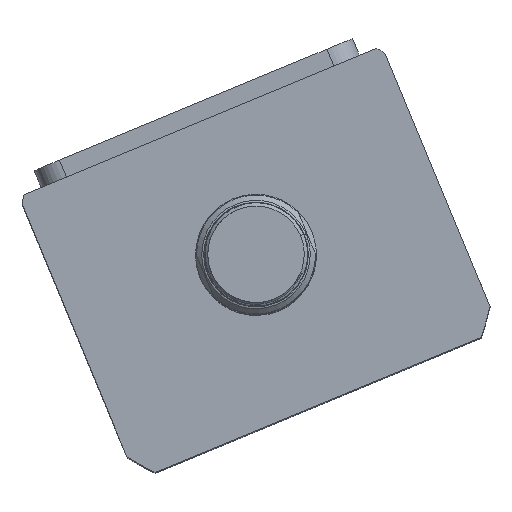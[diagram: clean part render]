
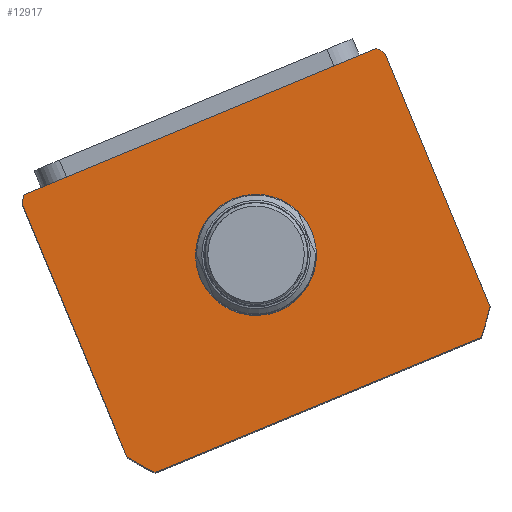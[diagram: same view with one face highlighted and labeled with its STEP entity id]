
A CAD part, top view. The second image highlights one B-rep face of the part: STEP entity #12917.
In plain terms, the highlighted planar face has unit normal (0, 0, 1) as drawn and (0, 0, -1) by its records, which use the part's own axes.
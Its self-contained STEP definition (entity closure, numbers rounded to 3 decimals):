
#563 = AXIS2_PLACEMENT_3D ( 'NONE', #21450, #8450, #23630 ) ;
#671 = CARTESIAN_POINT ( 'NONE',  ( -57., -44.5, 0. ) ) ;
#713 = DIRECTION ( 'NONE',  ( 1., 0., 0. ) ) ;
#1232 = DIRECTION ( 'NONE',  ( 0., 0., 1. ) ) ;
#1732 = VECTOR ( 'NONE', #20318, 1000. ) ;
#1845 = EDGE_LOOP ( 'NONE', ( #11958, #20841 ) ) ;
#1864 = EDGE_CURVE ( 'NONE', #23974, #14880, #13061, .T. ) ;
#2121 = CARTESIAN_POINT ( 'NONE',  ( 57., 42.265, 0. ) ) ;
#2470 = EDGE_CURVE ( 'NONE', #8707, #8083, #4126, .T. ) ;
#3437 = FACE_OUTER_BOUND ( 'NONE', #4893, .T. ) ;
#4126 = LINE ( 'NONE', #15268, #9264 ) ;
#4308 = VERTEX_POINT ( 'NONE', #10298 ) ;
#4715 = CARTESIAN_POINT ( 'NONE',  ( 0., 0., 0. ) ) ;
#4768 = CIRCLE ( 'NONE', #4861, 69.5 ) ;
#4861 = AXIS2_PLACEMENT_3D ( 'NONE', #26735, #13752, #713 ) ;
#4893 = EDGE_LOOP ( 'NONE', ( #20262, #7583, #14144, #9825, #6058, #24708, #20684, #8703 ) ) ;
#5033 = VERTEX_POINT ( 'NONE', #18912 ) ;
#6058 = ORIENTED_EDGE ( 'NONE', *, *, #7252, .F. ) ;
#6763 = VECTOR ( 'NONE', #27287, 1000. ) ;
#7252 = EDGE_CURVE ( 'NONE', #15856, #26081, #11267, .T. ) ;
#7306 = EDGE_CURVE ( 'NONE', #14880, #23974, #21407, .T. ) ;
#7416 = CARTESIAN_POINT ( 'NONE',  ( -17.5, 2.5, 0. ) ) ;
#7583 = ORIENTED_EDGE ( 'NONE', *, *, #2470, .F. ) ;
#8083 = VERTEX_POINT ( 'NONE', #2121 ) ;
#8450 = DIRECTION ( 'NONE',  ( 0., 0., 1. ) ) ;
#8703 = ORIENTED_EDGE ( 'NONE', *, *, #9735, .F. ) ;
#8707 = VERTEX_POINT ( 'NONE', #28166 ) ;
#9202 = DIRECTION ( 'NONE',  ( 0., 0., 1. ) ) ;
#9251 = FACE_BOUND ( 'NONE', #1845, .T. ) ;
#9264 = VECTOR ( 'NONE', #21788, 1000. ) ;
#9331 = VERTEX_POINT ( 'NONE', #12616 ) ;
#9735 = EDGE_CURVE ( 'NONE', #9331, #4308, #17642, .T. ) ;
#9825 = ORIENTED_EDGE ( 'NONE', *, *, #12334, .F. ) ;
#9909 = AXIS2_PLACEMENT_3D ( 'NONE', #24455, #11482, #26653 ) ;
#10090 = DIRECTION ( 'NONE',  ( 0., 0., 1. ) ) ;
#10196 = CIRCLE ( 'NONE', #9909, 69.5 ) ;
#10298 = CARTESIAN_POINT ( 'NONE',  ( -55.374, 44.5, 0. ) ) ;
#10676 = CARTESIAN_POINT ( 'NONE',  ( 0., 2.5, 0. ) ) ;
#11267 = CIRCLE ( 'NONE', #22532, 69.5 ) ;
#11482 = DIRECTION ( 'NONE',  ( 0., 0., 1. ) ) ;
#11958 = ORIENTED_EDGE ( 'NONE', *, *, #1864, .T. ) ;
#12011 = EDGE_CURVE ( 'NONE', #4308, #21212, #18629, .T. ) ;
#12143 = CARTESIAN_POINT ( 'NONE',  ( -57., 44.5, 0. ) ) ;
#12334 = EDGE_CURVE ( 'NONE', #26081, #5033, #19092, .T. ) ;
#12616 = CARTESIAN_POINT ( 'NONE',  ( 55.374, 44.5, 0. ) ) ;
#12682 = CARTESIAN_POINT ( 'NONE',  ( -57., 44.5, 0. ) ) ;
#12917 = ADVANCED_FACE ( 'NONE', ( #9251, #3437 ), #22182, .F. ) ;
#13061 = CIRCLE ( 'NONE', #18040, 17.5 ) ;
#13141 = AXIS2_PLACEMENT_3D ( 'NONE', #4715, #9202, #24362 ) ;
#13752 = DIRECTION ( 'NONE',  ( 0., 0., 1. ) ) ;
#14062 = CARTESIAN_POINT ( 'NONE',  ( -57., 42.265, 0. ) ) ;
#14144 = ORIENTED_EDGE ( 'NONE', *, *, #21942, .F. ) ;
#14286 = CARTESIAN_POINT ( 'NONE',  ( 0., 2.5, 0. ) ) ;
#14806 = CARTESIAN_POINT ( 'NONE',  ( -51.198, -44.5, 0. ) ) ;
#14880 = VERTEX_POINT ( 'NONE', #7416 ) ;
#15268 = CARTESIAN_POINT ( 'NONE',  ( 57., 44.5, 0. ) ) ;
#15796 = EDGE_CURVE ( 'NONE', #8083, #9331, #10196, .T. ) ;
#15856 = VERTEX_POINT ( 'NONE', #17926 ) ;
#16446 = DIRECTION ( 'NONE',  ( 1., 0., 0. ) ) ;
#16491 = CARTESIAN_POINT ( 'NONE',  ( 17.5, 2.5, 0. ) ) ;
#17642 = LINE ( 'NONE', #12143, #6763 ) ;
#17926 = CARTESIAN_POINT ( 'NONE',  ( -57., -37.265, 0. ) ) ;
#18040 = AXIS2_PLACEMENT_3D ( 'NONE', #10676, #28010, #23482 ) ;
#18629 = CIRCLE ( 'NONE', #563, 69.5 ) ;
#18912 = CARTESIAN_POINT ( 'NONE',  ( 51.198, -44.5, 0. ) ) ;
#18973 = LINE ( 'NONE', #12682, #24736 ) ;
#19092 = LINE ( 'NONE', #671, #1732 ) ;
#19611 = AXIS2_PLACEMENT_3D ( 'NONE', #23069, #10090, #25241 ) ;
#20262 = ORIENTED_EDGE ( 'NONE', *, *, #15796, .F. ) ;
#20318 = DIRECTION ( 'NONE',  ( 1., 0., 0. ) ) ;
#20684 = ORIENTED_EDGE ( 'NONE', *, *, #12011, .F. ) ;
#20841 = ORIENTED_EDGE ( 'NONE', *, *, #7306, .T. ) ;
#21212 = VERTEX_POINT ( 'NONE', #14062 ) ;
#21407 = CIRCLE ( 'NONE', #19611, 17.5 ) ;
#21450 = CARTESIAN_POINT ( 'NONE',  ( 0., 2.5, 0. ) ) ;
#21788 = DIRECTION ( 'NONE',  ( 0., 1., 0. ) ) ;
#21942 = EDGE_CURVE ( 'NONE', #5033, #8707, #4768, .T. ) ;
#22182 = PLANE ( 'NONE',  #13141 ) ;
#22532 = AXIS2_PLACEMENT_3D ( 'NONE', #14286, #1232, #16446 ) ;
#23069 = CARTESIAN_POINT ( 'NONE',  ( 0., 2.5, 0. ) ) ;
#23482 = DIRECTION ( 'NONE',  ( 1., 0., 0. ) ) ;
#23630 = DIRECTION ( 'NONE',  ( 1., 0., 0. ) ) ;
#23974 = VERTEX_POINT ( 'NONE', #16491 ) ;
#24362 = DIRECTION ( 'NONE',  ( 1., 0., 0. ) ) ;
#24455 = CARTESIAN_POINT ( 'NONE',  ( 0., 2.5, 0. ) ) ;
#24708 = ORIENTED_EDGE ( 'NONE', *, *, #25594, .F. ) ;
#24736 = VECTOR ( 'NONE', #25646, 1000. ) ;
#25241 = DIRECTION ( 'NONE',  ( 1., 0., 0. ) ) ;
#25594 = EDGE_CURVE ( 'NONE', #21212, #15856, #18973, .T. ) ;
#25646 = DIRECTION ( 'NONE',  ( 0., -1., 0. ) ) ;
#26081 = VERTEX_POINT ( 'NONE', #14806 ) ;
#26653 = DIRECTION ( 'NONE',  ( 1., 0., 0. ) ) ;
#26735 = CARTESIAN_POINT ( 'NONE',  ( 0., 2.5, 0. ) ) ;
#27287 = DIRECTION ( 'NONE',  ( -1., 0., 0. ) ) ;
#28010 = DIRECTION ( 'NONE',  ( 0., 0., 1. ) ) ;
#28166 = CARTESIAN_POINT ( 'NONE',  ( 57., -37.265, 0. ) ) ;
